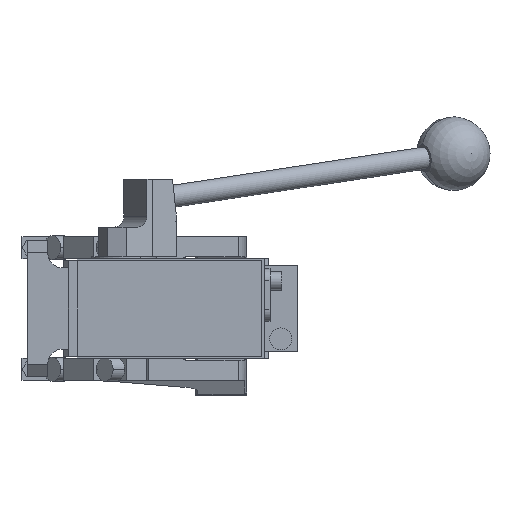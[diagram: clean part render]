
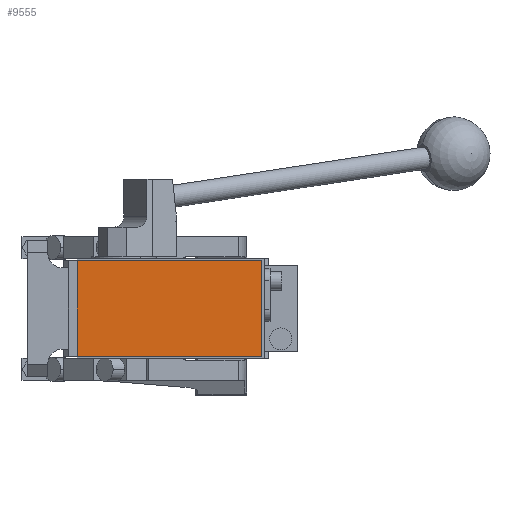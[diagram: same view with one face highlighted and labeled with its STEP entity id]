
A CAD part, front view. The second image highlights one B-rep face of the part: STEP entity #9555.
In plain terms, the highlighted planar face has unit normal (0, -1, 0).
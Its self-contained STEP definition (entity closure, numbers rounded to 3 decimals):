
#773 = ORIENTED_EDGE ( 'NONE', *, *, #14397, .T. ) ;
#864 = ORIENTED_EDGE ( 'NONE', *, *, #8194, .T. ) ;
#1442 = DIRECTION ( 'NONE',  ( -1., 0., 0. ) ) ;
#2575 = DIRECTION ( 'NONE',  ( 0., 0., 1. ) ) ;
#2615 = CARTESIAN_POINT ( 'NONE',  ( -19., -286.5, -26. ) ) ;
#3350 = VECTOR ( 'NONE', #2575, 1000. ) ;
#4769 = CARTESIAN_POINT ( 'NONE',  ( 81., -286.5, 26. ) ) ;
#4937 = AXIS2_PLACEMENT_3D ( 'NONE', #16113, #6220, #7288 ) ;
#5727 = VERTEX_POINT ( 'NONE', #2615 ) ;
#5784 = LINE ( 'NONE', #11558, #5990 ) ;
#5990 = VECTOR ( 'NONE', #1442, 1000. ) ;
#6220 = DIRECTION ( 'NONE',  ( 0., -1., 0. ) ) ;
#6283 = VERTEX_POINT ( 'NONE', #11708 ) ;
#6645 = ORIENTED_EDGE ( 'NONE', *, *, #9647, .T. ) ;
#6751 = VECTOR ( 'NONE', #11531, 1000. ) ;
#6995 = CARTESIAN_POINT ( 'NONE',  ( -19., -286.5, -26. ) ) ;
#7288 = DIRECTION ( 'NONE',  ( 0., 0., -1. ) ) ;
#7958 = LINE ( 'NONE', #6995, #10956 ) ;
#8194 = EDGE_CURVE ( 'NONE', #5727, #6283, #7958, .T. ) ;
#8680 = VERTEX_POINT ( 'NONE', #13443 ) ;
#9555 = ADVANCED_FACE ( 'NONE', ( #9826 ), #12551, .T. ) ;
#9647 = EDGE_CURVE ( 'NONE', #14940, #8680, #5784, .T. ) ;
#9826 = FACE_OUTER_BOUND ( 'NONE', #10916, .T. ) ;
#10916 = EDGE_LOOP ( 'NONE', ( #773, #864, #12688, #6645 ) ) ;
#10956 = VECTOR ( 'NONE', #12990, 1000. ) ;
#11358 = LINE ( 'NONE', #15412, #6751 ) ;
#11531 = DIRECTION ( 'NONE',  ( 0., 0., -1. ) ) ;
#11558 = CARTESIAN_POINT ( 'NONE',  ( -19., -286.5, 26. ) ) ;
#11708 = CARTESIAN_POINT ( 'NONE',  ( 81., -286.5, -26. ) ) ;
#12551 = PLANE ( 'NONE',  #4937 ) ;
#12688 = ORIENTED_EDGE ( 'NONE', *, *, #12954, .T. ) ;
#12689 = CARTESIAN_POINT ( 'NONE',  ( 81., -286.5, 26. ) ) ;
#12954 = EDGE_CURVE ( 'NONE', #6283, #14940, #15333, .T. ) ;
#12990 = DIRECTION ( 'NONE',  ( 1., 0., 0. ) ) ;
#13443 = CARTESIAN_POINT ( 'NONE',  ( -19., -286.5, 26. ) ) ;
#14397 = EDGE_CURVE ( 'NONE', #8680, #5727, #11358, .T. ) ;
#14940 = VERTEX_POINT ( 'NONE', #4769 ) ;
#15333 = LINE ( 'NONE', #12689, #3350 ) ;
#15412 = CARTESIAN_POINT ( 'NONE',  ( -19., -286.5, 26. ) ) ;
#16113 = CARTESIAN_POINT ( 'NONE',  ( 0., -286.5, 0. ) ) ;
